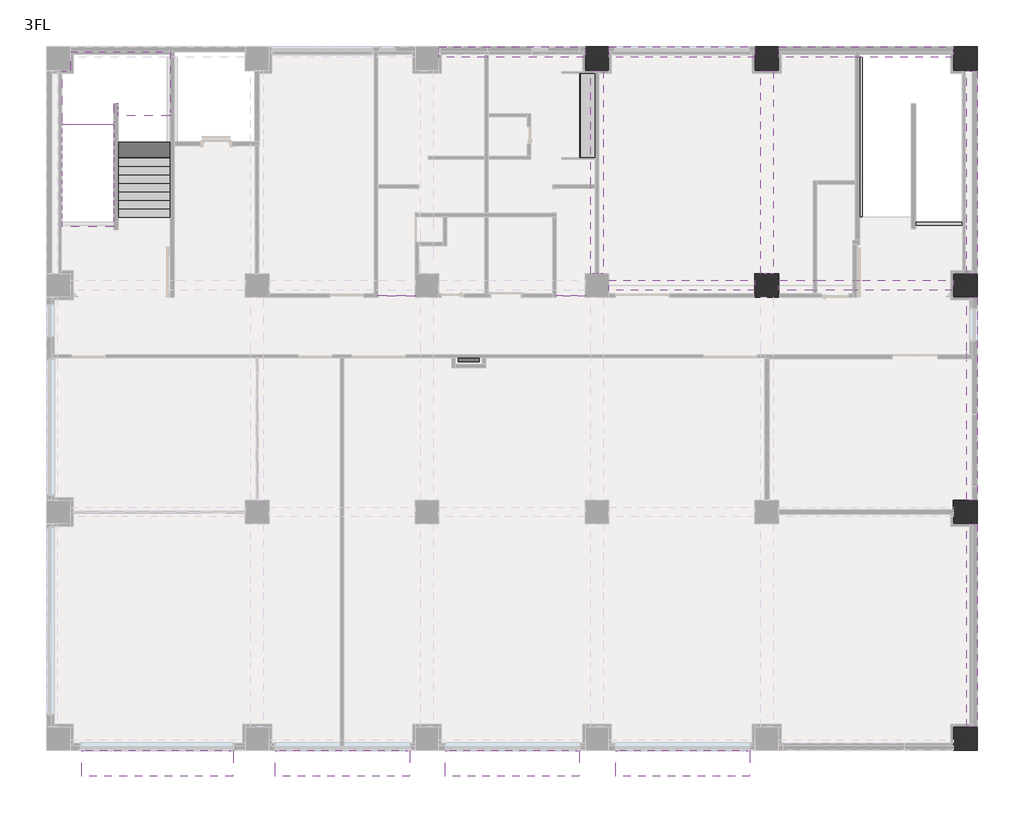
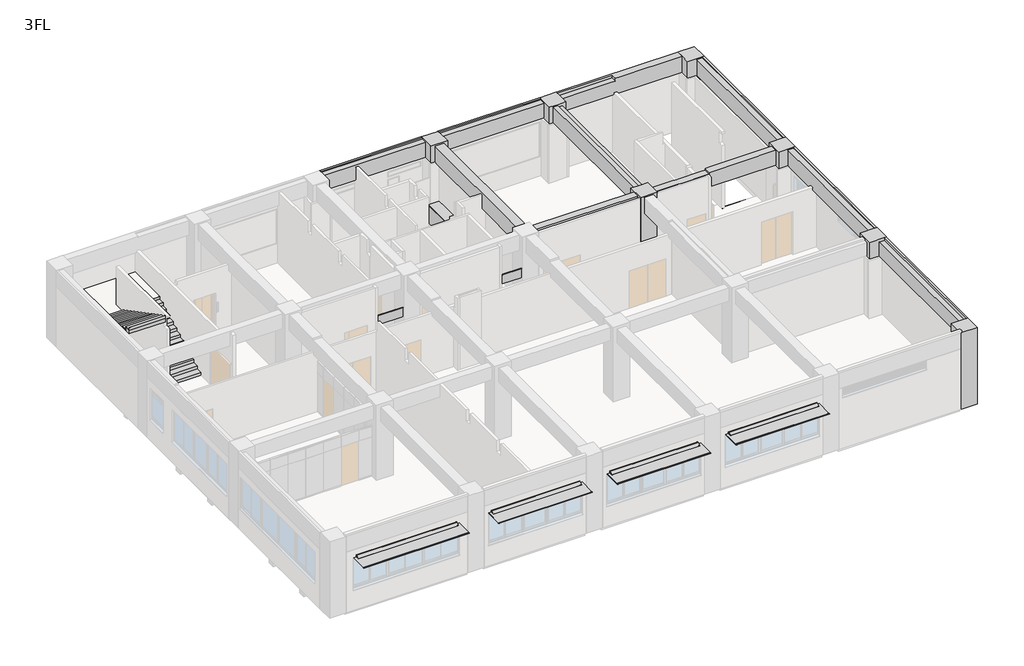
# One storey, part 6 of 6: 15 beams, 7 columns, 7 proxies, 2 stair flights, 1 flow terminal, 1 slab.
"""IFC4 building model written with IfcOpenShell, lengths in millimetres."""

from ifc_helpers import new_model, si_unit, frame, origin, place, context, project, spatial, polyline, outline, extrude, faceted_brep, transform, mapped, element, save
from components import generic_models_889831fe, generic_models_706210b3, specialty_equipment_ac76b24c, generic_models_8fc78ecc, generic_models_3a1368d3, flow_terminal_46fab2b1

model = new_model("IFC4")

# Units and contexts
model_context = context("Model", 3, world=origin())
ifc_project = project(units=[si_unit("LENGTHUNIT", "METRE", prefix="MILLI")], contexts=[model_context])

# Site, building, storey
site = spatial("IfcSite", under=ifc_project)
building = spatial("IfcBuilding", under=site)
storey = spatial("IfcBuildingStorey", under=building, Name="3FL", Elevation=8200.0)

# Beams
placement = place(None, origin())
element("IfcBeam", 1, ObjectType="営_RC梁 : 2-RG2 350*850", at=placement, inside=storey, context=model_context, shape_type="SweptSolid", body=[
    extrude(outline(polyline([(19420.0, 15825.0), (19420.0, 16175.0), (24580.0, 16175.0), (24580.0, 15825.0), (19420.0, 15825.0)])), frame((0.0, 0.0, 11350.0), z_axis=(0.0, 0.0, 1.0), x_axis=(1.0, 0.0, 0.0)), (0.0, 0.0, 1.0), 790.0),
])
element("IfcBeam", 2, ObjectType="営_RC梁 : 2-RG2 350*850", at=placement, inside=storey, context=model_context, shape_type="Brep", body=[
    faceted_brep([(25420.0, 15825.0, 11350.0), (26640.0, 15825.0, 11350.0), (26760.0, 15825.0, 11350.0), (28025.0, 15825.0, 11350.0), (28175.0, 15825.0, 11350.0), (31580.0, 15825.0, 11350.0), (31580.0, 15825.0, 12140.0), (28200.0, 15825.0, 12140.0), (28200.0, 15825.0, 12050.0), (28175.0, 15825.0, 12050.0), (28025.0, 15825.0, 12050.0), (26760.0, 15825.0, 12050.0), (26640.0, 15825.0, 12050.0), (25420.0, 15825.0, 12050.0), (25420.0, 16175.0, 11350.0), (26640.0, 16175.0, 11350.0), (26760.0, 16175.0, 11350.0), (28025.0, 16175.0, 11350.0), (28175.0, 16175.0, 11350.0), (31580.0, 16175.0, 11350.0), (25420.0, 16175.0, 12050.0), (26640.0, 16175.0, 12050.0), (26760.0, 16175.0, 12050.0), (28024.0, 16175.0, 12050.0), (28200.0, 16175.0, 12050.0), (28200.0, 16175.0, 12140.0), (28374.0, 16175.0, 12140.0), (31580.0, 16175.0, 12140.0)], [[[0, 1, 2, 3, 4, 5, 6, 7, 8, 9, 10, 11, 12, 13]], [[0, 14, 15, 16, 17, 18, 19, 5, 4, 3, 2, 1]], [[19, 18, 17, 16, 15, 14, 20, 21, 22, 23, 24, 25, 26, 27]], [[14, 0, 13, 20]], [[5, 19, 27, 6]], [[8, 24, 23, 22, 21, 20, 13, 12, 11, 10, 9]], [[24, 8, 7, 25]], [[7, 6, 27, 26, 25]]]),
])
element("IfcBeam", 3, ObjectType="営_RC梁 : 2-RG1 350*850", at=placement, inside=storey, context=model_context, shape_type="Brep", body=[
    faceted_brep([(13420.0, 24050.0, 11350.0), (15040.0, 24050.0, 11350.0), (15160.0, 24050.0, 11350.0), (18580.0, 24050.0, 11350.0), (18580.0, 24050.0, 12140.0), (13420.0, 24050.0, 12140.0), (13420.0, 24250.0, 11350.0), (13420.0, 24420.0, 11350.0), (18580.0, 24420.0, 11350.0), (18580.0, 24250.0, 11350.0), (13420.0, 24420.0, 12200.0), (18580.0, 24420.0, 12200.0), (13420.0, 24335.0, 12200.0), (18580.0, 24335.0, 12200.0), (13420.0, 24335.0, 12140.0), (18580.0, 24335.0, 12140.0)], [[[0, 1, 2, 3, 4, 5]], [[0, 6, 7, 8, 9, 3, 2, 1]], [[7, 10, 11, 8]], [[11, 10, 12, 13]], [[7, 6, 0, 5, 14, 12, 10]], [[3, 9, 8, 11, 13, 15, 4]], [[15, 14, 5, 4]], [[14, 15, 13, 12]]]),
])
element("IfcBeam", 4, ObjectType="営_RC梁 : 2-RG1 350*850", at=placement, inside=storey, context=model_context, shape_type="Brep", body=[
    faceted_brep([(19420.0, 24050.0, 11350.0), (24580.0, 24050.0, 11350.0), (24580.0, 24050.0, 12140.0), (19420.0, 24050.0, 12140.0), (19420.0, 24250.0, 11350.0), (19420.0, 24420.0, 11350.0), (24580.0, 24420.0, 11350.0), (24580.0, 24250.0, 11350.0), (19420.0, 24420.0, 12200.0), (24580.0, 24420.0, 12200.0), (19420.0, 24335.0, 12200.0), (24580.0, 24335.0, 12200.0), (19420.0, 24335.0, 12140.0), (24580.0, 24335.0, 12140.0)], [[[0, 1, 2, 3]], [[0, 4, 5, 6, 7, 1]], [[5, 8, 9, 6]], [[9, 8, 10, 11]], [[5, 4, 0, 3, 12, 10, 8]], [[1, 7, 6, 9, 11, 13, 2]], [[13, 12, 3, 2]], [[12, 13, 11, 10]]]),
])
element("IfcBeam", 5, ObjectType="営_RC梁 : 2-RG1 350*850", at=placement, inside=storey, context=model_context, shape_type="Brep", body=[
    faceted_brep([(25420.0, 24050.0, 11350.0), (28125.0, 24050.0, 11350.0), (28275.0, 24050.0, 11350.0), (31580.0, 24050.0, 11350.0), (31580.0, 24050.0, 12200.0), (28374.0, 24050.0, 12200.0), (28200.0, 24050.0, 12200.0), (28200.0, 24050.0, 12050.0), (28024.0, 24050.0, 12050.0), (25420.0, 24050.0, 12050.0), (25420.0, 24250.0, 11350.0), (25420.0, 24420.0, 11350.0), (31580.0, 24420.0, 11350.0), (31580.0, 24250.0, 11350.0), (25420.0, 24420.0, 12200.0), (31580.0, 24420.0, 12200.0), (25420.0, 24335.0, 12200.0), (28200.0, 24335.0, 12200.0), (25420.0, 24335.0, 12050.0), (28200.0, 24335.0, 12050.0)], [[[0, 1, 2, 3, 4, 5, 6, 7, 8, 9]], [[0, 10, 11, 12, 13, 3, 2, 1]], [[11, 14, 15, 12]], [[15, 14, 16, 17, 6, 5, 4]], [[11, 10, 0, 9, 18, 16, 14]], [[4, 3, 13, 12, 15]], [[7, 19, 18, 9, 8]], [[19, 17, 16, 18]], [[17, 19, 7, 6]]]),
])
element("IfcBeam", 6, ObjectType="営_RC梁 : 2-4G12 450*900", at=placement, inside=storey, context=model_context, shape_type="Brep", body=[
    faceted_brep([(19225.0, 16420.0, 11300.0), (19225.0, 23580.0, 11300.0), (19225.0, 23580.0, 12140.0), (19225.0, 21515.0, 12140.0), (19225.0, 21165.0, 12140.0), (19225.0, 18845.0, 12140.0), (19225.0, 18495.0, 12140.0), (19225.0, 16420.0, 12140.0), (19060.0, 16420.0, 11300.0), (18940.0, 16420.0, 11300.0), (18775.0, 16420.0, 11300.0), (18775.0, 19430.0, 11300.0), (18775.0, 19550.0, 11300.0), (18775.0, 23580.0, 11300.0), (18940.0, 23580.0, 11300.0), (19060.0, 23580.0, 11300.0), (18775.0, 16420.0, 12140.0), (18775.0, 18495.0, 12140.0), (18775.0, 18845.0, 12140.0), (18775.0, 21165.0, 12140.0), (18775.0, 21515.0, 12140.0), (18775.0, 23580.0, 12140.0)], [[[0, 1, 2, 3, 4, 5, 6, 7]], [[0, 8, 9, 10, 11, 12, 13, 14, 15, 1]], [[13, 12, 11, 10, 16, 17, 18, 19, 20, 21]], [[10, 9, 8, 0, 7, 16]], [[1, 15, 14, 13, 21, 2]], [[7, 6, 5, 4, 3, 2, 21, 20, 19, 18, 17, 16]]]),
])
element("IfcBeam", 7, ObjectType="営_RC梁 : 2-4G12 450*900", at=placement, inside=storey, context=model_context, shape_type="Brep", body=[
    faceted_brep([(25225.0, 16420.0, 11300.0), (25225.0, 23580.0, 11300.0), (25225.0, 23580.0, 12050.0), (25225.0, 16420.0, 12050.0), (24775.0, 16420.0, 11300.0), (24775.0, 23580.0, 11300.0), (24775.0, 16420.0, 12140.0), (24775.0, 18495.0, 12140.0), (24775.0, 18845.0, 12140.0), (24775.0, 21165.0, 12140.0), (24775.0, 21515.0, 12140.0), (24775.0, 23580.0, 12140.0), (25000.0, 16420.0, 12050.0), (25000.0, 16420.0, 12140.0), (25000.0, 23580.0, 12140.0), (25000.0, 23580.0, 12050.0)], [[[0, 1, 2, 3]], [[0, 4, 5, 1]], [[5, 4, 6, 7, 8, 9, 10, 11]], [[4, 0, 3, 12, 13, 6]], [[1, 5, 11, 14, 15, 2]], [[15, 12, 3, 2]], [[12, 15, 14, 13]], [[11, 10, 9, 8, 7, 6, 13, 14]]]),
])
element("IfcBeam", 8, ObjectType="営_RC梁 : 2-RG11 350*900", at=placement, inside=storey, context=model_context, shape_type="Brep", body=[
    faceted_brep([(32420.0, 7580.0, 11300.0), (32420.0, 7580.0, 12200.0), (32420.0, 420.0, 12200.0), (32420.0, 420.0, 11300.0), (32050.0, 7580.0, 11300.0), (32250.0, 7580.0, 11300.0), (32250.0, 420.0, 11300.0), (32050.0, 420.0, 11300.0), (32050.0, 420.0, 12050.0), (32050.0, 2485.0, 12050.0), (32050.0, 2835.0, 12050.0), (32050.0, 5155.0, 12050.0), (32050.0, 5505.0, 12050.0), (32050.0, 7580.0, 12050.0), (32325.0, 7580.0, 12200.0), (32325.0, 420.0, 12200.0), (32325.0, 7580.0, 12050.0), (32325.0, 420.0, 12050.0)], [[[0, 1, 2, 3]], [[4, 5, 0, 3, 6, 7]], [[4, 7, 8, 9, 10, 11, 12, 13]], [[2, 1, 14, 15]], [[1, 0, 5, 4, 13, 16, 14]], [[3, 2, 15, 17, 8, 7, 6]], [[17, 16, 13, 12, 11, 10, 9, 8]], [[16, 17, 15, 14]]]),
])
element("IfcBeam", 9, ObjectType="営_RC梁 : 2-RG11 350*900", at=placement, inside=storey, context=model_context, shape_type="Brep", body=[
    faceted_brep([(32420.0, 8420.0, 12200.0), (32420.0, 8420.0, 11300.0), (32420.0, 15580.0, 11300.0), (32420.0, 15580.0, 12200.0), (32250.0, 8420.0, 11300.0), (32050.0, 8420.0, 11300.0), (32050.0, 13405.0, 11300.0), (32050.0, 13555.0, 11300.0), (32050.0, 15580.0, 11300.0), (32160.0, 15580.0, 11300.0), (32250.0, 15580.0, 11300.0), (32050.0, 8420.0, 12140.0), (32050.0, 10575.0, 12140.0), (32050.0, 10925.0, 12140.0), (32050.0, 13325.0, 12140.0), (32050.0, 13675.0, 12140.0), (32050.0, 15580.0, 12140.0), (32325.0, 15580.0, 12200.0), (32325.0, 8420.0, 12200.0), (32325.0, 8420.0, 12140.0), (32325.0, 15580.0, 12140.0)], [[[0, 1, 2, 3]], [[1, 4, 5, 6, 7, 8, 9, 10, 2]], [[8, 7, 6, 5, 11, 12, 13, 14, 15, 16]], [[0, 3, 17, 18]], [[1, 0, 18, 19, 11, 5, 4]], [[3, 2, 10, 9, 8, 16, 20, 17]], [[19, 20, 16, 15, 14, 13, 12, 11]], [[20, 19, 18, 17]]]),
])
element("IfcBeam", 10, ObjectType="営_RC梁 : 2-RG11 350*900", at=placement, inside=storey, context=model_context, shape_type="Brep", body=[
    faceted_brep([(32420.0, 16420.0, 12200.0), (32420.0, 16420.0, 11300.0), (32420.0, 23580.0, 11300.0), (32420.0, 23580.0, 12200.0), (32250.0, 16420.0, 11300.0), (32050.0, 16420.0, 11300.0), (32050.0, 23580.0, 11300.0), (32250.0, 23580.0, 11300.0), (32050.0, 16420.0, 12140.0), (32050.0, 17975.0, 12140.0), (32050.0, 18225.0, 12140.0), (32050.0, 23580.0, 12140.0), (32325.0, 23580.0, 12200.0), (32325.0, 16669.8819845, 12200.0), (32325.0, 16420.0, 12200.0), (32325.0, 16420.0, 12140.0), (32325.0, 23580.0, 12140.0), (32325.0, 16669.8819845, 12140.0)], [[[0, 1, 2, 3]], [[1, 4, 5, 6, 7, 2]], [[6, 5, 8, 9, 10, 11]], [[0, 3, 12, 13, 14]], [[1, 0, 14, 15, 8, 5, 4]], [[3, 2, 7, 6, 11, 16, 12]], [[17, 16, 11, 10, 9, 8, 15]], [[17, 15, 14, 13]], [[16, 17, 13, 12]]]),
])
element("IfcBeam", 11, ObjectType="営_RC梁 : B4 350*750", at=placement, inside=storey, context=model_context, shape_type="Brep", body=[
    faceted_brep([(28374.0, 16175.0, 7350.0), (28374.0, 24050.0, 7350.0), (28374.0, 24050.0, 8100.0), (28374.0, 18400.0, 8100.0), (28374.0, 18400.0, 8040.0), (28374.0, 18225.0, 8040.0), (28374.0, 17975.0, 8040.0), (28374.0, 16175.0, 8040.0), (28175.0, 16175.0, 7350.0), (28025.0, 16175.0, 7350.0), (28024.0, 16175.0, 7350.0), (28024.0, 19575.0, 7350.0), (28024.0, 19695.0, 7350.0), (28024.0, 24050.0, 7350.0), (28024.0, 16175.0, 7950.0), (28024.0, 24050.0, 7950.0), (28200.0, 24050.0, 8100.0), (28200.0, 18400.0, 8100.0), (28200.0, 16175.0, 8040.0), (28200.0, 16175.0, 7950.0), (28200.0, 24050.0, 7950.0), (28200.0, 18400.0, 8040.0)], [[[0, 1, 2, 3, 4, 5, 6, 7]], [[0, 8, 9, 10, 11, 12, 13, 1]], [[13, 12, 11, 10, 14, 15]], [[3, 2, 16, 17]], [[10, 9, 8, 0, 7, 18, 19, 14]], [[2, 1, 13, 15, 20, 16]], [[4, 21, 18, 7, 6, 5]], [[21, 4, 3, 17]], [[19, 20, 15, 14]], [[20, 19, 18, 21, 17, 16]]]),
])
element("IfcBeam", 12, ObjectType="営_RC梁 : B3 250*600", at=placement, inside=storey, context=model_context, shape_type="Brep", body=[
    faceted_brep([(28374.0, 17975.0, 7500.0), (32050.0, 17975.0, 7500.0), (32050.0, 17975.0, 8040.0), (28374.0, 17975.0, 8040.0), (28374.0, 18225.0, 7500.0), (30105.0, 18225.0, 7500.0), (30255.0, 18225.0, 7500.0), (32050.0, 18225.0, 7500.0), (28374.0, 18225.0, 8040.0), (30105.0, 18225.0, 8040.0), (30105.0, 18225.0, 8100.0), (30255.0, 18225.0, 8100.0), (31900.0, 18225.0, 8100.0), (31900.0, 18225.0, 8040.0), (32050.0, 18225.0, 8040.0), (30105.0, 18005.0, 8100.0), (30255.0, 18005.0, 8100.0), (30255.0, 18100.0, 8100.0), (31900.0, 18100.0, 8100.0), (30255.0, 18005.0, 8040.0), (30105.0, 18005.0, 8040.0), (31900.0, 18100.0, 8040.0), (30255.0, 18100.0, 8040.0)], [[[0, 1, 2, 3]], [[0, 4, 5, 6, 7, 1]], [[7, 6, 5, 4, 8, 9, 10, 11, 12, 13, 14]], [[12, 11, 10, 15, 16, 17, 18]], [[4, 0, 3, 8]], [[1, 7, 14, 2]], [[19, 20, 9, 8, 3, 2, 14, 13, 21, 22]], [[9, 20, 15, 10]], [[20, 19, 16, 15]], [[19, 22, 17, 16]], [[22, 21, 18, 17]], [[21, 13, 12, 18]]]),
])
element("IfcBeam", 13, ObjectType="営_RC梁 : B1 350*750", at=placement, inside=storey, context=model_context, shape_type="Brep", body=[
    faceted_brep([(19225.0, 18495.0, 7350.0), (21940.0, 18495.0, 7350.0), (22060.0, 18495.0, 7350.0), (24775.0, 18495.0, 7350.0), (24775.0, 18495.0, 7950.0), (19225.0, 18495.0, 7950.0), (19225.0, 18845.0, 7350.0), (21940.0, 18845.0, 7350.0), (22060.0, 18845.0, 7350.0), (24775.0, 18845.0, 7350.0), (19225.0, 18845.0, 7950.0), (24775.0, 18845.0, 7950.0)], [[[0, 1, 2, 3, 4, 5]], [[0, 6, 7, 8, 9, 3, 2, 1]], [[9, 8, 7, 6, 10, 11]], [[6, 0, 5, 10]], [[3, 9, 11, 4]], [[5, 4, 11, 10]]]),
])
element("IfcBeam", 14, ObjectType="営_RC梁 : B1 350*750", at=placement, inside=storey, context=model_context, shape_type="Brep", body=[
    faceted_brep([(19225.0, 21165.0, 7350.0), (21940.0, 21165.0, 7350.0), (22060.0, 21165.0, 7350.0), (24775.0, 21165.0, 7350.0), (24775.0, 21165.0, 7950.0), (19225.0, 21165.0, 7950.0), (19225.0, 21515.0, 7350.0), (21940.0, 21515.0, 7350.0), (22060.0, 21515.0, 7350.0), (24775.0, 21515.0, 7350.0), (19225.0, 21515.0, 7950.0), (24775.0, 21515.0, 7950.0)], [[[0, 1, 2, 3, 4, 5]], [[0, 6, 7, 8, 9, 3, 2, 1]], [[9, 8, 7, 6, 10, 11]], [[6, 0, 5, 10]], [[3, 9, 11, 4]], [[5, 4, 11, 10]]]),
])
element("IfcBeam", 15, ObjectType="営_RC梁 : B1 350*750", at=placement, inside=storey, context=model_context, shape_type="Brep", body=[
    faceted_brep([(13225.0, 21165.0, 7350.0), (15040.0, 21165.0, 7350.0), (15160.0, 21165.0, 7350.0), (16540.0, 21165.0, 7350.0), (16660.0, 21165.0, 7350.0), (18775.0, 21165.0, 7350.0), (18775.0, 21165.0, 8040.0), (13225.0, 21165.0, 8040.0), (13225.0, 21515.0, 7350.0), (15040.0, 21515.0, 7350.0), (15160.0, 21515.0, 7350.0), (16540.0, 21515.0, 7350.0), (16660.0, 21515.0, 7350.0), (18775.0, 21515.0, 7350.0), (13225.0, 21515.0, 8040.0), (18775.0, 21515.0, 8040.0)], [[[0, 1, 2, 3, 4, 5, 6, 7]], [[0, 8, 9, 10, 11, 12, 13, 5, 4, 3, 2, 1]], [[13, 12, 11, 10, 9, 8, 14, 15]], [[8, 0, 7, 14]], [[5, 13, 15, 6]], [[7, 6, 15, 14]]]),
])

# Proxies
generic_models_shape = generic_models_889831fe(model_context)
element("IfcBuildingElementProxy", 16, Name="営_付庇_窓 : 付庇", ObjectType="営_付庇_窓 : 付庇", at=placement, inside=storey, context=model_context, shape_type="MappedRepresentation", body=[
    mapped(generic_models_shape, transform((3476.2951348, -420.0, 8200.0), x_axis=(1.0, 0.0, 0.0), y_axis=(0.0, 1.0, 0.0), z_axis=(0.0, 0.0, 1.0))),
])
generic_models_2_shape = generic_models_706210b3(model_context)
element("IfcBuildingElementProxy", 17, Name="営_付庇_窓 : 付庇", ObjectType="営_付庇_窓 : 付庇", at=placement, inside=storey, context=model_context, shape_type="MappedRepresentation", body=[
    mapped(generic_models_2_shape, transform((10011.2951348, -420.0, 8200.0), x_axis=(1.0, 0.0, 0.0), y_axis=(0.0, 1.0, 0.0), z_axis=(0.0, 0.0, 1.0))),
])
element("IfcBuildingElementProxy", 18, Name="営_付庇_窓 : 付庇", ObjectType="営_付庇_窓 : 付庇", at=placement, inside=storey, context=model_context, shape_type="MappedRepresentation", body=[
    mapped(generic_models_2_shape, transform((16011.2951348, -420.0, 8200.0), x_axis=(1.0, 0.0, 0.0), y_axis=(0.0, 1.0, 0.0), z_axis=(0.0, 0.0, 1.0))),
])
element("IfcBuildingElementProxy", 19, Name="営_付庇_窓 : 付庇", ObjectType="営_付庇_窓 : 付庇", at=placement, inside=storey, context=model_context, shape_type="MappedRepresentation", body=[
    mapped(generic_models_2_shape, transform((22031.2951348, -420.0, 8200.0), x_axis=(1.0, 0.0, 0.0), y_axis=(0.0, 1.0, 0.0), z_axis=(0.0, 0.0, 1.0))),
])
specialty_equipment_shape = specialty_equipment_ac76b24c(model_context)
element("IfcBuildingElementProxy", 20, Name="営_屋内消火栓 : 屋内消火栓", ObjectType="営_屋内消火栓 : 屋内消火栓", at=placement, inside=storey, context=model_context, shape_type="MappedRepresentation", body=[
    mapped(specialty_equipment_shape, transform((14470.0, 13550.0, 8200.0), x_axis=(1.0, 0.0, 0.0), y_axis=(0.0, 1.0, 0.0), z_axis=(0.0, 0.0, 1.0))),
])
generic_models_3_shape = generic_models_8fc78ecc(model_context)
element("IfcBuildingElementProxy", 21, Name="防煙垂壁 : 可動防煙垂壁", ObjectType="防煙垂壁 : 可動防煙垂壁", at=placement, inside=storey, context=model_context, shape_type="MappedRepresentation", body=[
    mapped(generic_models_3_shape, transform((12580.0, 15630.0, 8200.0), x_axis=(-1.0, 0.0, 0.0), y_axis=(0.0, -1.0, 0.0), z_axis=(0.0, 0.0, 1.0))),
])
generic_models_4_shape = generic_models_3a1368d3(model_context)
element("IfcBuildingElementProxy", 22, Name="防煙垂壁 : 可動防煙垂壁", ObjectType="防煙垂壁 : 可動防煙垂壁", at=placement, inside=storey, context=model_context, shape_type="MappedRepresentation", body=[
    mapped(generic_models_4_shape, transform((18580.0, 15630.0, 8200.0), x_axis=(-1.0, 0.0, 0.0), y_axis=(0.0, -1.0, 0.0), z_axis=(0.0, 0.0, 1.0))),
])

# Columns
element("IfcColumn", 23, ObjectType="営_RC柱_角 : 800*800", at=placement, inside=storey, context=model_context, shape_type="Brep", body=[
    faceted_brep([(32420.0, 420.0, 8100.0), (32420.0, -420.0, 8100.0), (31580.0, -420.0, 8100.0), (31580.0, -250.0, 8100.0), (31580.0, 420.0, 8100.0), (32250.0, 420.0, 8100.0), (32420.0, 420.0, 12200.0), (32420.0, 370.0, 12200.0), (32420.0, -420.0, 12200.0), (32420.0, 420.0, 11300.0), (31630.0, -420.0, 12200.0), (31580.0, -420.0, 12200.0), (31580.0, -420.0, 11350.0), (31580.0, -325.0, 12200.0), (31580.0, 420.0, 12200.0), (31580.0, 420.0, 12050.0), (31580.0, 420.0, 8190.0), (31580.0, 420.0, 8180.0), (32325.0, 420.0, 12200.0)], [[[0, 1, 2, 3, 4, 5]], [[6, 7, 8, 1, 0, 9]], [[8, 10, 11, 12, 2, 1]], [[11, 13, 14, 15, 16, 17, 4, 3, 2, 12]], [[14, 18, 6, 9, 0, 5, 4, 17, 16, 15]], [[6, 18, 14, 13, 11, 10, 8, 7]]]),
])
element("IfcColumn", 24, ObjectType="営_RC柱_角 : 800*800", at=placement, inside=storey, context=model_context, shape_type="Brep", body=[
    faceted_brep([(32420.0, 8420.0, 8100.0), (32420.0, 7580.0, 8100.0), (32250.0, 7580.0, 8100.0), (31580.0, 7580.0, 8100.0), (31580.0, 8420.0, 8100.0), (32250.0, 8420.0, 8100.0), (32325.0, 8420.0, 8100.0), (32420.0, 8420.0, 12200.0), (32420.0, 8395.0, 12200.0), (32420.0, 7605.0, 12200.0), (32420.0, 7580.0, 12200.0), (32420.0, 7580.0, 11300.0), (32420.0, 8420.0, 11300.0), (32325.0, 7580.0, 12200.0), (31580.0, 7580.0, 12200.0), (31580.0, 7580.0, 12050.0), (31580.0, 7580.0, 8190.0), (31580.0, 7580.0, 8180.0), (31580.0, 8000.0, 12200.0), (31580.0, 8420.0, 12200.0), (31580.0, 8420.0, 12140.0), (31580.0, 8420.0, 8190.0), (32325.0, 8420.0, 12200.0)], [[[0, 1, 2, 3, 4, 5, 6]], [[7, 8, 9, 10, 11, 1, 0, 12]], [[10, 13, 14, 15, 16, 17, 3, 2, 1, 11]], [[14, 18, 19, 20, 21, 4, 3, 17, 16, 15]], [[19, 22, 7, 12, 0, 6, 5, 4, 21, 20]], [[7, 22, 19, 18, 14, 13, 10, 9, 8]]]),
])
element("IfcColumn", 25, ObjectType="営_RC柱_角 : 800*800", at=placement, inside=storey, context=model_context, shape_type="Brep", body=[
    faceted_brep([(25420.0, 16420.0, 8100.0), (25420.0, 15580.0, 8100.0), (24580.0, 15580.0, 8100.0), (24580.0, 16420.0, 8100.0), (25420.0, 16420.0, 12200.0), (25420.0, 15665.0, 12200.0), (25420.0, 15580.0, 12200.0), (25420.0, 15580.0, 12140.0), (25420.0, 15580.0, 8200.0), (25420.0, 15580.0, 8190.0), (25420.0, 16420.0, 8180.0), (25420.0, 16420.0, 8190.0), (25420.0, 16420.0, 12050.0), (24580.0, 15580.0, 12200.0), (24580.0, 15580.0, 12140.0), (24580.0, 15580.0, 8200.0), (24580.0, 15580.0, 8190.0), (24580.0, 16420.0, 12200.0), (24580.0, 16420.0, 12140.0), (24580.0, 16420.0, 8190.0), (24580.0, 16420.0, 8180.0), (25000.0, 16420.0, 12200.0)], [[[0, 1, 2, 3]], [[4, 5, 6, 7, 8, 9, 1, 0, 10, 11, 12]], [[6, 13, 14, 15, 16, 2, 1, 9, 8, 7]], [[13, 17, 18, 19, 20, 3, 2, 16, 15, 14]], [[17, 21, 4, 12, 11, 10, 0, 3, 20, 19, 18]], [[4, 21, 17, 13, 6, 5]]]),
])
element("IfcColumn", 26, ObjectType="営_RC柱_角 : 800*800", at=placement, inside=storey, context=model_context, shape_type="Brep", body=[
    faceted_brep([(32420.0, 16420.0, 8100.0), (32420.0, 15580.0, 8100.0), (32325.0, 15580.0, 8100.0), (32250.0, 15580.0, 8100.0), (31580.0, 15580.0, 8100.0), (31580.0, 16420.0, 8100.0), (32250.0, 16420.0, 8100.0), (32325.0, 16420.0, 8100.0), (32420.0, 16420.0, 12200.0), (32420.0, 16395.0, 12200.0), (32420.0, 15605.0, 12200.0), (32420.0, 15580.0, 12200.0), (32420.0, 15580.0, 11300.0), (32420.0, 16420.0, 11300.0), (32325.0, 15580.0, 12200.0), (31580.0, 15580.0, 12200.0), (31580.0, 15580.0, 12140.0), (31580.0, 15580.0, 8190.0), (31580.0, 16420.0, 12200.0), (31580.0, 16420.0, 12140.0), (31580.0, 16420.0, 8190.0), (32325.0, 16420.0, 12200.0)], [[[0, 1, 2, 3, 4, 5, 6, 7]], [[8, 9, 10, 11, 12, 1, 0, 13]], [[11, 14, 15, 16, 17, 4, 3, 2, 1, 12]], [[15, 18, 19, 20, 5, 4, 17, 16]], [[18, 21, 8, 13, 0, 7, 6, 5, 20, 19]], [[8, 21, 18, 15, 14, 11, 10, 9]]]),
])
element("IfcColumn", 27, ObjectType="営_RC柱_角 : 800*800", at=placement, inside=storey, context=model_context, shape_type="Brep", body=[
    faceted_brep([(19420.0, 24420.0, 8100.0), (19420.0, 24250.0, 8100.0), (19420.0, 23580.0, 8100.0), (18580.0, 23580.0, 8100.0), (18580.0, 24250.0, 8100.0), (18580.0, 24420.0, 8100.0), (19420.0, 24420.0, 12200.0), (19420.0, 24335.0, 12200.0), (19420.0, 23580.0, 12200.0), (19420.0, 23580.0, 12140.0), (19420.0, 23580.0, 8190.0), (19420.0, 23580.0, 8180.0), (19420.0, 24420.0, 11350.0), (18580.0, 23580.0, 12200.0), (18580.0, 23580.0, 12140.0), (18580.0, 23580.0, 8190.0), (18580.0, 24335.0, 12200.0), (18580.0, 24420.0, 12200.0), (18580.0, 24420.0, 11350.0), (18605.0, 24420.0, 12200.0), (19395.0, 24420.0, 12200.0)], [[[0, 1, 2, 3, 4, 5]], [[6, 7, 8, 9, 10, 11, 2, 1, 0, 12]], [[8, 13, 14, 15, 3, 2, 11, 10, 9]], [[13, 16, 17, 18, 5, 4, 3, 15, 14]], [[17, 19, 20, 6, 12, 0, 5, 18]], [[6, 20, 19, 17, 16, 13, 8, 7]]]),
])
element("IfcColumn", 28, ObjectType="営_RC柱_角 : 800*800", at=placement, inside=storey, context=model_context, shape_type="Brep", body=[
    faceted_brep([(25420.0, 24420.0, 8100.0), (25420.0, 24250.0, 8100.0), (25420.0, 23580.0, 8100.0), (24580.0, 23580.0, 8100.0), (24580.0, 24250.0, 8100.0), (24580.0, 24420.0, 8100.0), (25420.0, 24420.0, 12200.0), (25420.0, 24335.0, 12200.0), (25420.0, 23580.0, 12200.0), (25420.0, 23580.0, 12050.0), (25420.0, 23580.0, 8190.0), (25420.0, 23580.0, 8180.0), (25420.0, 24420.0, 11350.0), (25000.0, 23580.0, 12200.0), (24580.0, 23580.0, 12200.0), (24580.0, 23580.0, 12140.0), (24580.0, 23580.0, 8190.0), (24580.0, 23580.0, 8180.0), (24580.0, 24335.0, 12200.0), (24580.0, 24420.0, 12200.0), (24580.0, 24420.0, 11350.0), (24605.0, 24420.0, 12200.0), (25395.0, 24420.0, 12200.0)], [[[0, 1, 2, 3, 4, 5]], [[6, 7, 8, 9, 10, 11, 2, 1, 0, 12]], [[8, 13, 14, 15, 16, 17, 3, 2, 11, 10, 9]], [[14, 18, 19, 20, 5, 4, 3, 17, 16, 15]], [[19, 21, 22, 6, 12, 0, 5, 20]], [[6, 22, 21, 19, 18, 14, 13, 8, 7]]]),
])
element("IfcColumn", 29, ObjectType="営_RC柱_角 : 800*800", at=placement, inside=storey, context=model_context, shape_type="Brep", body=[
    faceted_brep([(32420.0, 24420.0, 8100.0), (32420.0, 23580.0, 8100.0), (32250.0, 23580.0, 8100.0), (31580.0, 23580.0, 8100.0), (31580.0, 24250.0, 8100.0), (31580.0, 24420.0, 8100.0), (32420.0, 24420.0, 12200.0), (32420.0, 23630.0, 12200.0), (32420.0, 23580.0, 12200.0), (32420.0, 23580.0, 11300.0), (32325.0, 23580.0, 12200.0), (31580.0, 23580.0, 12200.0), (31580.0, 24050.0, 12200.0), (31580.0, 24420.0, 12200.0), (31580.0, 24420.0, 11350.0), (31630.0, 24420.0, 12200.0)], [[[0, 1, 2, 3, 4, 5]], [[6, 7, 8, 9, 1, 0]], [[8, 10, 11, 3, 2, 1, 9]], [[11, 12, 13, 14, 5, 4, 3]], [[13, 15, 6, 0, 5, 14]], [[6, 15, 13, 12, 11, 10, 8, 7]]]),
])

# Flow terminal
flow_terminal_shape = flow_terminal_46fab2b1(model_context)
element("IfcFlowTerminal", 30, ObjectType="ライニング : ライニング", at=placement, inside=storey, context=model_context, shape_type="MappedRepresentation", body=[
    mapped(flow_terminal_shape, transform((19000.0, 21870.0, 8200.0), x_axis=(0.0, 1.0, 0.0), y_axis=(-1.0, 0.0, 0.0), z_axis=(0.0, 0.0, 1.0))),
])

# Slab
element("IfcSlab", 31, ObjectType="200+20", at=placement, inside=storey, context=model_context, shape_type="Brep", body=[
    faceted_brep([(115.0, 21700.0, 10230.0), (115.0, 21680.0, 10230.0), (1945.0, 21680.0, 10230.0), (1945.0, 21700.0, 10230.0), (1945.0, 21776.1491315, 10230.0), (1945.0, 22410.0, 10230.0), (2095.0, 22410.0, 10230.0), (2095.0, 22223.8508685, 10230.0), (2095.0, 22020.0, 10230.0), (3925.0, 22020.0, 10230.0), (3925.0, 22223.8508685, 10230.0), (3925.0, 24250.0, 10230.0), (420.0, 24250.0, 10230.0), (420.0, 23580.0, 10230.0), (115.0, 23580.0, 10230.0), (115.0, 21776.1491315, 10230.0), (2095.0, 22020.0, 10072.3076923), (2095.0, 22020.0, 9902.8476204), (3925.0, 22020.0, 9902.8476204), (3925.0, 22020.0, 10072.3076923), (3925.0, 22223.8508685, 10010.0), (3925.0, 24250.0, 10010.0), (420.0, 24250.0, 10010.0), (115.0, 21700.0, 10050.0271076), (115.0, 23580.0, 10010.0), (115.0, 21776.1491315, 10010.0), (115.0, 21680.0, 10060.5399281), (1945.0, 21680.0, 10060.5399281), (1945.0, 21700.0, 10050.0271076), (1945.0, 21776.1491315, 10010.0), (1945.0, 22410.0, 10010.0), (2095.0, 22223.8508685, 10010.0), (2095.0, 22410.0, 10010.0), (420.0, 23580.0, 10010.0)], [[[0, 1, 2, 3, 4, 5, 6, 7, 8, 9, 10, 11, 12, 13, 14, 15]], [[9, 8, 16, 17, 18, 19]], [[9, 19, 18, 20, 21, 11, 10]], [[12, 11, 21, 22]], [[23, 0, 15, 14, 24, 25]], [[2, 1, 26, 27]], [[3, 28, 29, 30, 5, 4]], [[20, 31, 32, 30, 29, 25, 24, 33, 22, 21]], [[31, 20, 18, 17]], [[25, 29, 28, 27, 26, 23]], [[6, 5, 30, 32]], [[6, 32, 31, 17, 16, 8, 7]], [[13, 12, 22, 33]], [[14, 13, 33, 24]], [[1, 0, 23, 26]], [[3, 2, 27, 28]]]),
    faceted_brep([(115.0, 21700.0, 10250.0), (1945.0, 21700.0, 10250.0), (1945.0, 22410.0, 10250.0), (2095.0, 22410.0, 10250.0), (2095.0, 22000.0, 10250.0), (3925.0, 22000.0, 10250.0), (3925.0, 24250.0, 10250.0), (420.0, 24250.0, 10250.0), (420.0, 23580.0, 10250.0), (115.0, 23580.0, 10250.0), (115.0, 21700.0, 10230.0), (115.0, 23580.0, 10230.0), (420.0, 23580.0, 10230.0), (420.0, 24250.0, 10230.0), (3925.0, 24250.0, 10230.0), (3925.0, 22020.0, 10230.0), (3925.0, 22000.0, 10230.0), (2095.0, 22000.0, 10230.0), (2095.0, 22020.0, 10230.0), (2095.0, 22410.0, 10230.0), (1945.0, 22410.0, 10230.0), (1945.0, 21700.0, 10230.0)], [[[0, 1, 2, 3, 4, 5, 6, 7, 8, 9]], [[10, 11, 12, 13, 14, 15, 16, 17, 18, 19, 20, 21]], [[1, 0, 10, 21]], [[2, 1, 21, 20]], [[3, 2, 20, 19]], [[4, 3, 19, 18, 17]], [[5, 4, 17, 16]], [[6, 5, 16, 15, 14]], [[7, 6, 14, 13]], [[8, 7, 13, 12]], [[9, 8, 12, 11]], [[0, 9, 11, 10]]]),
])

# Stair flights
element("IfcStairFlight", 32, ObjectType="150+20", at=placement, inside=storey, context=model_context, shape_type="SolidModel", body=[
    faceted_brep([(2095.0, 18720.0, 8337.6923077), (2095.0, 18420.0, 8337.6923077), (3925.0, 18420.0, 8337.6923077), (3925.0, 18720.0, 8337.6923077), (2095.0, 18720.0, 8200.0), (2095.0, 18420.0, 8200.0), (3925.0, 18420.0, 8200.0), (3925.0, 18720.0, 8200.0), (2095.0, 19020.0, 8495.3846154), (2095.0, 18720.0, 8495.3846154), (3925.0, 18720.0, 8495.3846154), (3925.0, 19020.0, 8495.3846154), (2095.0, 19020.0, 8325.9245435), (2095.0, 18780.4362344, 8200.0), (3925.0, 18780.4362344, 8200.0), (3925.0, 19020.0, 8325.9245435), (2095.0, 19320.0, 8653.0769231), (2095.0, 19020.0, 8653.0769231), (3925.0, 19020.0, 8653.0769231), (3925.0, 19320.0, 8653.0769231), (2095.0, 19320.0, 8483.6168512), (3925.0, 19320.0, 8483.6168512), (2095.0, 19620.0, 8810.7692308), (2095.0, 19320.0, 8810.7692308), (3925.0, 19320.0, 8810.7692308), (3925.0, 19620.0, 8810.7692308), (2095.0, 19620.0, 8641.3091588), (3925.0, 19620.0, 8641.3091588), (2095.0, 19920.0, 8968.4615385), (2095.0, 19620.0, 8968.4615385), (3925.0, 19620.0, 8968.4615385), (3925.0, 19920.0, 8968.4615385), (2095.0, 19920.0, 8799.0014665), (3925.0, 19920.0, 8799.0014665), (2095.0, 20220.0, 9126.1538462), (2095.0, 19920.0, 9126.1538462), (3925.0, 19920.0, 9126.1538462), (3925.0, 20220.0, 9126.1538462), (2095.0, 20220.0, 8956.6937742), (3925.0, 20220.0, 8956.6937742), (2095.0, 20520.0, 9283.8461538), (2095.0, 20220.0, 9283.8461538), (3925.0, 20220.0, 9283.8461538), (3925.0, 20520.0, 9283.8461538), (2095.0, 20520.0, 9114.3860819), (3925.0, 20520.0, 9114.3860819), (2095.0, 20820.0, 9441.5384615), (2095.0, 20520.0, 9441.5384615), (3925.0, 20520.0, 9441.5384615), (3925.0, 20820.0, 9441.5384615), (2095.0, 20820.0, 9272.0783896), (3925.0, 20820.0, 9272.0783896), (2095.0, 21120.0, 9599.2307692), (2095.0, 20820.0, 9599.2307692), (3925.0, 20820.0, 9599.2307692), (3925.0, 21120.0, 9599.2307692), (2095.0, 21120.0, 9429.7706973), (3925.0, 21120.0, 9429.7706973), (2095.0, 21420.0, 9756.9230769), (2095.0, 21120.0, 9756.9230769), (3925.0, 21120.0, 9756.9230769), (3925.0, 21420.0, 9756.9230769), (2095.0, 21420.0, 9587.463005), (3925.0, 21420.0, 9587.463005), (2095.0, 21720.0, 9914.6153846), (2095.0, 21420.0, 9914.6153846), (3925.0, 21420.0, 9914.6153846), (3925.0, 21720.0, 9914.6153846), (2095.0, 21720.0, 9745.1553127), (3925.0, 21720.0, 9745.1553127), (2095.0, 21720.0, 10072.3076923), (3925.0, 21720.0, 10072.3076923), (3925.0, 22000.0, 10072.3076923), (3925.0, 22020.0, 10072.3076923), (2095.0, 22020.0, 10072.3076923), (2095.0, 22000.0, 10072.3076923), (2095.0, 22020.0, 9902.8476204), (2095.0, 22000.0, 9892.3347999), (3925.0, 22000.0, 9892.3347999), (3925.0, 22020.0, 9902.8476204)], [[[0, 1, 2, 3]], [[1, 0, 4, 5]], [[2, 1, 5, 6]], [[3, 2, 6, 7]], [[8, 9, 10, 11]], [[4, 0, 9, 8, 12, 13]], [[0, 3, 10, 9]], [[3, 7, 14, 15, 11, 10]], [[16, 17, 18, 19]], [[17, 16, 20, 12, 8]], [[8, 11, 18, 17]], [[19, 18, 11, 15, 21]], [[22, 23, 24, 25]], [[23, 22, 26, 20, 16]], [[16, 19, 24, 23]], [[25, 24, 19, 21, 27]], [[28, 29, 30, 31]], [[29, 28, 32, 26, 22]], [[22, 25, 30, 29]], [[31, 30, 25, 27, 33]], [[34, 35, 36, 37]], [[35, 34, 38, 32, 28]], [[28, 31, 36, 35]], [[37, 36, 31, 33, 39]], [[40, 41, 42, 43]], [[41, 40, 44, 38, 34]], [[34, 37, 42, 41]], [[43, 42, 37, 39, 45]], [[46, 47, 48, 49]], [[47, 46, 50, 44, 40]], [[40, 43, 48, 47]], [[49, 48, 43, 45, 51]], [[52, 53, 54, 55]], [[53, 52, 56, 50, 46]], [[46, 49, 54, 53]], [[55, 54, 49, 51, 57]], [[58, 59, 60, 61]], [[59, 58, 62, 56, 52]], [[52, 55, 60, 59]], [[61, 60, 55, 57, 63]], [[64, 65, 66, 67]], [[65, 64, 68, 62, 58]], [[58, 61, 66, 65]], [[67, 66, 61, 63, 69]], [[70, 71, 72, 73, 74, 75]], [[64, 70, 75, 74, 76, 77, 68]], [[64, 67, 71, 70]], [[71, 67, 69, 78, 79, 73, 72]], [[74, 73, 79, 76]], [[5, 4, 13, 14, 7, 6]], [[14, 13, 12, 20, 26, 32, 38, 44, 50, 56, 62, 68, 77, 76, 79, 78, 69, 63, 57, 51, 45, 39, 33, 27, 21, 15]]]),
    extrude(outline(polyline([(18420.0, 8337.6923077), (18420.0, 8200.0), (18400.0, 8200.0), (18400.0, 8357.6923077), (18700.0, 8357.6923077), (18700.0, 8515.3846154), (19000.0, 8515.3846154), (19000.0, 8673.0769231), (19300.0, 8673.0769231), (19300.0, 8830.7692308), (19600.0, 8830.7692308), (19600.0, 8988.4615385), (19900.0, 8988.4615385), (19900.0, 9146.1538462), (20200.0, 9146.1538462), (20200.0, 9303.8461538), (20500.0, 9303.8461538), (20500.0, 9461.5384615), (20800.0, 9461.5384615), (20800.0, 9619.2307692), (21100.0, 9619.2307692), (21100.0, 9776.9230769), (21400.0, 9776.9230769), (21400.0, 9934.6153846), (21700.0, 9934.6153846), (21700.0, 10092.3076923), (22000.0, 10092.3076923), (22000.0, 10230.0), (22020.0, 10230.0), (22020.0, 10072.3076923), (21720.0, 10072.3076923), (21720.0, 9914.6153846), (21420.0, 9914.6153846), (21420.0, 9756.9230769), (21120.0, 9756.9230769), (21120.0, 9599.2307692), (20820.0, 9599.2307692), (20820.0, 9441.5384615), (20520.0, 9441.5384615), (20520.0, 9283.8461538), (20220.0, 9283.8461538), (20220.0, 9126.1538462), (19920.0, 9126.1538462), (19920.0, 8968.4615385), (19620.0, 8968.4615385), (19620.0, 8810.7692308), (19320.0, 8810.7692308), (19320.0, 8653.0769231), (19020.0, 8653.0769231), (19020.0, 8495.3846154), (18720.0, 8495.3846154), (18720.0, 8337.6923077), (18420.0, 8337.6923077)])), frame((2095.0, 0.0, 0.0), z_axis=(1.0, 0.0, 0.0), x_axis=(0.0, 1.0, 0.0)), (0.0, 0.0, 1.0), 1830.0),
])
element("IfcStairFlight", 33, ObjectType="150+20", at=placement, inside=storey, context=model_context, shape_type="Brep", body=[
    faceted_brep([(1945.0, 21380.0, 10387.6923077), (1945.0, 21680.0, 10387.6923077), (115.0, 21680.0, 10387.6923077), (115.0, 21380.0, 10387.6923077), (1945.0, 21380.0, 10218.2322358), (1945.0, 21680.0, 10060.5399281), (1945.0, 21680.0, 10230.0), (115.0, 21680.0, 10060.5399281), (115.0, 21680.0, 10230.0), (115.0, 21380.0, 10218.2322358), (1945.0, 21080.0, 10545.3846154), (1945.0, 21380.0, 10545.3846154), (115.0, 21380.0, 10545.3846154), (115.0, 21080.0, 10545.3846154), (1945.0, 21080.0, 10375.9245435), (115.0, 21080.0, 10375.9245435), (1945.0, 20780.0, 10703.0769231), (1945.0, 21080.0, 10703.0769231), (115.0, 21080.0, 10703.0769231), (115.0, 20780.0, 10703.0769231), (1945.0, 20780.0, 10533.6168512), (115.0, 20780.0, 10533.6168512), (1945.0, 20480.0, 10860.7692308), (1945.0, 20780.0, 10860.7692308), (115.0, 20780.0, 10860.7692308), (115.0, 20480.0, 10860.7692308), (1945.0, 20480.0, 10691.3091588), (115.0, 20480.0, 10691.3091588), (1945.0, 20180.0, 11018.4615385), (1945.0, 20480.0, 11018.4615385), (115.0, 20480.0, 11018.4615385), (115.0, 20180.0, 11018.4615385), (1945.0, 20180.0, 10849.0014665), (115.0, 20180.0, 10849.0014665), (1945.0, 19880.0, 11176.1538462), (1945.0, 20180.0, 11176.1538462), (115.0, 20180.0, 11176.1538462), (115.0, 19880.0, 11176.1538462), (1945.0, 19880.0, 11006.6937742), (115.0, 19880.0, 11006.6937742), (1945.0, 19580.0, 11333.8461538), (1945.0, 19880.0, 11333.8461538), (115.0, 19880.0, 11333.8461538), (115.0, 19580.0, 11333.8461538), (1945.0, 19580.0, 11164.3860819), (115.0, 19580.0, 11164.3860819), (1945.0, 19280.0, 11491.5384615), (1945.0, 19580.0, 11491.5384615), (115.0, 19580.0, 11491.5384615), (115.0, 19280.0, 11491.5384615), (1945.0, 19280.0, 11322.0783896), (115.0, 19280.0, 11322.0783896), (1945.0, 18980.0, 11649.2307692), (1945.0, 19280.0, 11649.2307692), (115.0, 19280.0, 11649.2307692), (115.0, 18980.0, 11649.2307692), (1945.0, 18980.0, 11479.7706973), (115.0, 18980.0, 11479.7706973), (1945.0, 18680.0, 11806.9230769), (1945.0, 18980.0, 11806.9230769), (115.0, 18980.0, 11806.9230769), (115.0, 18680.0, 11806.9230769), (1945.0, 18680.0, 11637.463005), (115.0, 18680.0, 11637.463005), (1945.0, 18380.0, 11964.6153846), (1945.0, 18680.0, 11964.6153846), (115.0, 18680.0, 11964.6153846), (115.0, 18380.0, 11964.6153846), (1945.0, 18380.0, 11795.1553127), (115.0, 18380.0, 11795.1553127), (1945.0, 18080.0, 11952.8476204), (115.0, 18080.0, 11952.8476204), (1945.0, 18080.0, 12122.3076923), (1945.0, 18380.0, 12122.3076923), (115.0, 18380.0, 12122.3076923), (115.0, 18080.0, 12122.3076923)], [[[0, 1, 2, 3]], [[1, 0, 4, 5, 6]], [[2, 1, 6, 5, 7, 8]], [[3, 2, 8, 7, 9]], [[10, 11, 12, 13]], [[11, 10, 14, 4, 0]], [[12, 11, 0, 3]], [[13, 12, 3, 9, 15]], [[16, 17, 18, 19]], [[17, 16, 20, 14, 10]], [[18, 17, 10, 13]], [[19, 18, 13, 15, 21]], [[22, 23, 24, 25]], [[23, 22, 26, 20, 16]], [[24, 23, 16, 19]], [[25, 24, 19, 21, 27]], [[28, 29, 30, 31]], [[29, 28, 32, 26, 22]], [[30, 29, 22, 25]], [[31, 30, 25, 27, 33]], [[34, 35, 36, 37]], [[35, 34, 38, 32, 28]], [[36, 35, 28, 31]], [[37, 36, 31, 33, 39]], [[40, 41, 42, 43]], [[41, 40, 44, 38, 34]], [[42, 41, 34, 37]], [[43, 42, 37, 39, 45]], [[46, 47, 48, 49]], [[47, 46, 50, 44, 40]], [[48, 47, 40, 43]], [[49, 48, 43, 45, 51]], [[52, 53, 54, 55]], [[53, 52, 56, 50, 46]], [[54, 53, 46, 49]], [[55, 54, 49, 51, 57]], [[58, 59, 60, 61]], [[59, 58, 62, 56, 52]], [[60, 59, 52, 55]], [[61, 60, 55, 57, 63]], [[64, 65, 66, 67]], [[65, 64, 68, 62, 58]], [[66, 65, 58, 61]], [[67, 66, 61, 63, 69]], [[5, 4, 14, 20, 26, 32, 38, 44, 50, 56, 62, 68, 70, 71, 69, 63, 57, 51, 45, 39, 33, 27, 21, 15, 9, 7]], [[72, 73, 74, 75]], [[73, 72, 70, 68, 64]], [[74, 73, 64, 67]], [[75, 74, 67, 69, 71]], [[72, 75, 71, 70]]]),
    faceted_brep([(115.0, 21700.0, 10230.0), (115.0, 21680.0, 10230.0), (115.0, 21680.0, 10387.6923077), (115.0, 21380.0, 10387.6923077), (115.0, 21380.0, 10545.3846154), (115.0, 21080.0, 10545.3846154), (115.0, 21080.0, 10703.0769231), (115.0, 20780.0, 10703.0769231), (115.0, 20780.0, 10860.7692308), (115.0, 20480.0, 10860.7692308), (115.0, 20480.0, 11018.4615385), (115.0, 20180.0, 11018.4615385), (115.0, 20180.0, 11176.1538462), (115.0, 19880.0, 11176.1538462), (115.0, 19880.0, 11333.8461538), (115.0, 19580.0, 11333.8461538), (115.0, 19580.0, 11491.5384615), (115.0, 19280.0, 11491.5384615), (115.0, 19280.0, 11649.2307692), (115.0, 18980.0, 11649.2307692), (115.0, 18980.0, 11806.9230769), (115.0, 18680.0, 11806.9230769), (115.0, 18680.0, 11964.6153846), (115.0, 18380.0, 11964.6153846), (115.0, 18380.0, 12122.3076923), (115.0, 18080.0, 12122.3076923), (115.0, 18080.0, 12280.0), (115.0, 18100.0, 12280.0), (115.0, 18100.0, 12142.3076923), (115.0, 18400.0, 12142.3076923), (115.0, 18400.0, 11984.6153846), (115.0, 18700.0, 11984.6153846), (115.0, 18700.0, 11826.9230769), (115.0, 19000.0, 11826.9230769), (115.0, 19000.0, 11669.2307692), (115.0, 19300.0, 11669.2307692), (115.0, 19300.0, 11511.5384615), (115.0, 19600.0, 11511.5384615), (115.0, 19600.0, 11353.8461538), (115.0, 19900.0, 11353.8461538), (115.0, 19900.0, 11196.1538462), (115.0, 20200.0, 11196.1538462), (115.0, 20200.0, 11038.4615385), (115.0, 20500.0, 11038.4615385), (115.0, 20500.0, 10880.7692308), (115.0, 20800.0, 10880.7692308), (115.0, 20800.0, 10723.0769231), (115.0, 21100.0, 10723.0769231), (115.0, 21100.0, 10565.3846154), (115.0, 21400.0, 10565.3846154), (115.0, 21400.0, 10407.6923077), (115.0, 21700.0, 10407.6923077), (115.0, 21700.0, 10250.0), (1945.0, 21680.0, 10387.6923077), (1945.0, 21680.0, 10230.0), (1945.0, 21700.0, 10230.0), (1945.0, 21700.0, 10250.0), (1945.0, 21700.0, 10407.6923077), (1945.0, 21400.0, 10407.6923077), (1945.0, 21400.0, 10565.3846154), (1945.0, 21100.0, 10565.3846154), (1945.0, 21100.0, 10723.0769231), (1945.0, 20800.0, 10723.0769231), (1945.0, 20800.0, 10880.7692308), (1945.0, 20500.0, 10880.7692308), (1945.0, 20500.0, 11038.4615385), (1945.0, 20200.0, 11038.4615385), (1945.0, 20200.0, 11196.1538462), (1945.0, 19900.0, 11196.1538462), (1945.0, 19900.0, 11353.8461538), (1945.0, 19600.0, 11353.8461538), (1945.0, 19600.0, 11511.5384615), (1945.0, 19300.0, 11511.5384615), (1945.0, 19300.0, 11669.2307692), (1945.0, 19000.0, 11669.2307692), (1945.0, 19000.0, 11826.9230769), (1945.0, 18700.0, 11826.9230769), (1945.0, 18700.0, 11984.6153846), (1945.0, 18400.0, 11984.6153846), (1945.0, 18400.0, 12142.3076923), (1945.0, 18100.0, 12142.3076923), (1945.0, 18100.0, 12280.0), (1945.0, 18080.0, 12280.0), (1945.0, 18080.0, 12122.3076923), (1945.0, 18380.0, 12122.3076923), (1945.0, 18380.0, 11964.6153846), (1945.0, 18680.0, 11964.6153846), (1945.0, 18680.0, 11806.9230769), (1945.0, 18980.0, 11806.9230769), (1945.0, 18980.0, 11649.2307692), (1945.0, 19280.0, 11649.2307692), (1945.0, 19280.0, 11491.5384615), (1945.0, 19580.0, 11491.5384615), (1945.0, 19580.0, 11333.8461538), (1945.0, 19880.0, 11333.8461538), (1945.0, 19880.0, 11176.1538462), (1945.0, 20180.0, 11176.1538462), (1945.0, 20180.0, 11018.4615385), (1945.0, 20480.0, 11018.4615385), (1945.0, 20480.0, 10860.7692308), (1945.0, 20780.0, 10860.7692308), (1945.0, 20780.0, 10703.0769231), (1945.0, 21080.0, 10703.0769231), (1945.0, 21080.0, 10545.3846154), (1945.0, 21380.0, 10545.3846154), (1945.0, 21380.0, 10387.6923077)], [[[0, 1, 2, 3, 4, 5, 6, 7, 8, 9, 10, 11, 12, 13, 14, 15, 16, 17, 18, 19, 20, 21, 22, 23, 24, 25, 26, 27, 28, 29, 30, 31, 32, 33, 34, 35, 36, 37, 38, 39, 40, 41, 42, 43, 44, 45, 46, 47, 48, 49, 50, 51, 52]], [[53, 54, 55, 56, 57, 58, 59, 60, 61, 62, 63, 64, 65, 66, 67, 68, 69, 70, 71, 72, 73, 74, 75, 76, 77, 78, 79, 80, 81, 82, 83, 84, 85, 86, 87, 88, 89, 90, 91, 92, 93, 94, 95, 96, 97, 98, 99, 100, 101, 102, 103, 104, 105]], [[55, 0, 52, 51, 57, 56]], [[1, 0, 55, 54]], [[2, 1, 54, 53]], [[58, 57, 51, 50]], [[2, 53, 105, 3]], [[58, 50, 49, 59]], [[4, 3, 105, 104]], [[60, 59, 49, 48]], [[4, 104, 103, 5]], [[60, 48, 47, 61]], [[6, 5, 103, 102]], [[62, 61, 47, 46]], [[6, 102, 101, 7]], [[62, 46, 45, 63]], [[8, 7, 101, 100]], [[64, 63, 45, 44]], [[8, 100, 99, 9]], [[64, 44, 43, 65]], [[10, 9, 99, 98]], [[66, 65, 43, 42]], [[10, 98, 97, 11]], [[66, 42, 41, 67]], [[12, 11, 97, 96]], [[68, 67, 41, 40]], [[12, 96, 95, 13]], [[68, 40, 39, 69]], [[14, 13, 95, 94]], [[70, 69, 39, 38]], [[14, 94, 93, 15]], [[70, 38, 37, 71]], [[16, 15, 93, 92]], [[72, 71, 37, 36]], [[16, 92, 91, 17]], [[72, 36, 35, 73]], [[18, 17, 91, 90]], [[74, 73, 35, 34]], [[18, 90, 89, 19]], [[74, 34, 33, 75]], [[20, 19, 89, 88]], [[76, 75, 33, 32]], [[20, 88, 87, 21]], [[76, 32, 31, 77]], [[22, 21, 87, 86]], [[78, 77, 31, 30]], [[22, 86, 85, 23]], [[79, 78, 30, 29]], [[24, 23, 85, 84]], [[80, 79, 29, 28]], [[27, 81, 80, 28]], [[25, 24, 84, 83]], [[26, 25, 83, 82]], [[27, 26, 82, 81]]]),
])

save(model, "model.ifc")
